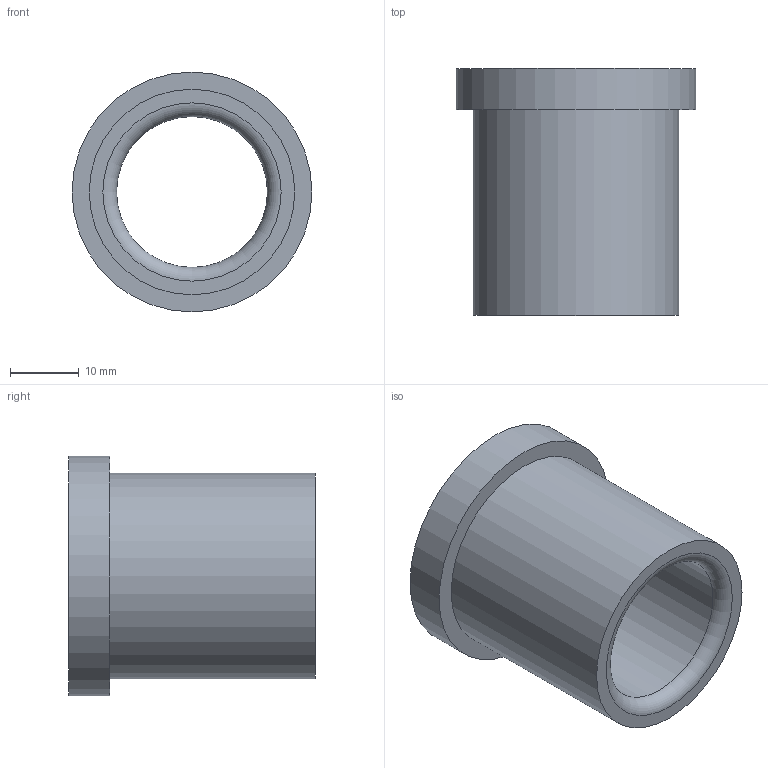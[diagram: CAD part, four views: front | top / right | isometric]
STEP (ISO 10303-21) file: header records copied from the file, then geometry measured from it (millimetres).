
FILE_DESCRIPTION(/* description */ ('STEP AP214'),/* implementation_level */ '2;1');
FILE_NAME(/* name */ '03_12_17929',/* time_stamp */ '2023-06-15T11:35:33+02:00',/* author */ ('License CC BY-ND 4.0'),/* organization */ ('CADENAS'),/* preprocessor_version */ 'ST-DEVELOPER v19.3',/* originating_system */ 'PARTsolutions',/* authorisation */ ' ');
FILE_SCHEMA (('AUTOMOTIVE_DESIGN {1 0 10303 214 3 1 1}'));
Length unit declared in the file: millimetre
Products named in the file (1): VA_Bushing_17929
Bounding box: 35 x 36 x 35 mm (x, y, z)
Volume: 13017.2 mm3; surface area: 7036.1 mm2
Topology: 1 solids, 1 shells, 10 faces, 16 edges, 10 vertices
Faces by surface type: cylinder 4, plane 4, torus 2
Full cylindrical faces by diameter (mm): 22 x1, 22.6 x1, 30 x1, 35 x1
Entity records: 302 total; most frequent: DIRECTION 42, CARTESIAN_POINT 31, AXIS2_PLACEMENT_3D 21, ORIENTED_EDGE 20, EDGE_LOOP 20, FACE_BOUND 20, EDGE_CURVE 10, VERTEX_POINT 10
